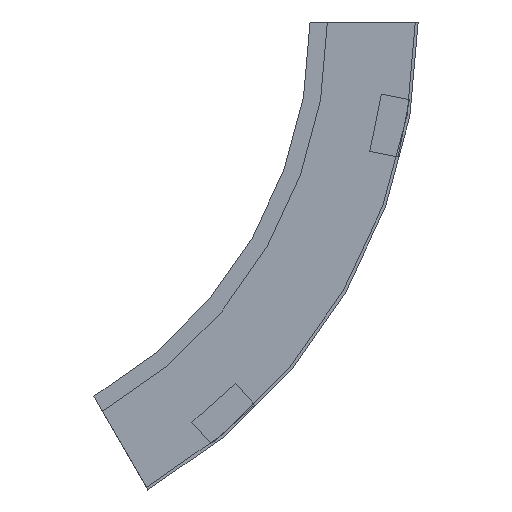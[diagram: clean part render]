
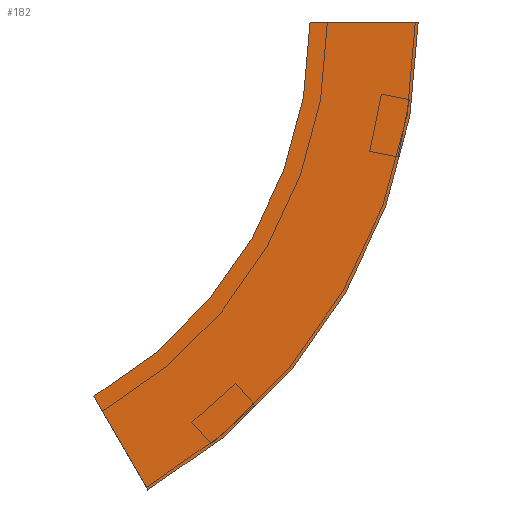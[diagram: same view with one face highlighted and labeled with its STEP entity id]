
A CAD part, left-side view. The second image highlights one B-rep face of the part: STEP entity #182.
In plain terms, the highlighted planar face has unit normal (-1, 0, 0) as drawn and (1, 0, 0) by its records, which use the part's own axes.
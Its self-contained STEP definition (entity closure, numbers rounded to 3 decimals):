
#3 = AXIS2_PLACEMENT_3D ( 'NONE', #17, #138, #356 ) ;
#17 = CARTESIAN_POINT ( 'NONE',  ( 0., 300., 0. ) ) ;
#25 = EDGE_CURVE ( 'NONE', #529, #221, #127, .T. ) ;
#44 = EDGE_CURVE ( 'NONE', #204, #480, #525, .T. ) ;
#70 = CARTESIAN_POINT ( 'NONE',  ( 0., 150., -259.808 ) ) ;
#81 = LINE ( 'NONE', #353, #203 ) ;
#108 = DIRECTION ( 'NONE',  ( 0., 0.5, 0.866 ) ) ;
#127 = CIRCLE ( 'NONE', #446, 375. ) ;
#130 = DIRECTION ( 'NONE',  ( 0., 1., 0. ) ) ;
#138 = DIRECTION ( 'NONE',  ( 1., 0., 0. ) ) ;
#155 = CARTESIAN_POINT ( 'NONE',  ( 0., 0., 0. ) ) ;
#165 = ORIENTED_EDGE ( 'NONE', *, *, #25, .T. ) ;
#174 = ORIENTED_EDGE ( 'NONE', *, *, #44, .F. ) ;
#178 = EDGE_CURVE ( 'NONE', #221, #480, #334, .T. ) ;
#182 = ADVANCED_FACE ( 'NONE', ( #366 ), #474, .F. ) ;
#203 = VECTOR ( 'NONE', #130, 1000. ) ;
#204 = VERTEX_POINT ( 'NONE', #155 ) ;
#218 = EDGE_LOOP ( 'NONE', ( #174, #487, #165, #493 ) ) ;
#221 = VERTEX_POINT ( 'NONE', #554 ) ;
#232 = DIRECTION ( 'NONE',  ( 0., 0., 1. ) ) ;
#234 = DIRECTION ( 'NONE',  ( 0., -1., 0. ) ) ;
#288 = EDGE_CURVE ( 'NONE', #529, #204, #81, .T. ) ;
#331 = VECTOR ( 'NONE', #108, 1000. ) ;
#334 = LINE ( 'NONE', #378, #331 ) ;
#353 = CARTESIAN_POINT ( 'NONE',  ( 0., -75., 0. ) ) ;
#355 = CARTESIAN_POINT ( 'NONE',  ( 0., -75., 0. ) ) ;
#356 = DIRECTION ( 'NONE',  ( 0., -1., 0. ) ) ;
#365 = DIRECTION ( 'NONE',  ( 1., 0., 0. ) ) ;
#366 = FACE_OUTER_BOUND ( 'NONE', #218, .T. ) ;
#367 = CARTESIAN_POINT ( 'NONE',  ( 0., 300., 0. ) ) ;
#378 = CARTESIAN_POINT ( 'NONE',  ( 0., 112.5, -324.76 ) ) ;
#385 = AXIS2_PLACEMENT_3D ( 'NONE', #548, #478, #232 ) ;
#446 = AXIS2_PLACEMENT_3D ( 'NONE', #367, #365, #234 ) ;
#474 = PLANE ( 'NONE',  #385 ) ;
#478 = DIRECTION ( 'NONE',  ( -1., 0., 0. ) ) ;
#480 = VERTEX_POINT ( 'NONE', #70 ) ;
#487 = ORIENTED_EDGE ( 'NONE', *, *, #288, .F. ) ;
#493 = ORIENTED_EDGE ( 'NONE', *, *, #178, .T. ) ;
#525 = CIRCLE ( 'NONE', #3, 300. ) ;
#529 = VERTEX_POINT ( 'NONE', #355 ) ;
#548 = CARTESIAN_POINT ( 'NONE',  ( 0., -75., 0. ) ) ;
#554 = CARTESIAN_POINT ( 'NONE',  ( 0., 112.5, -324.76 ) ) ;
